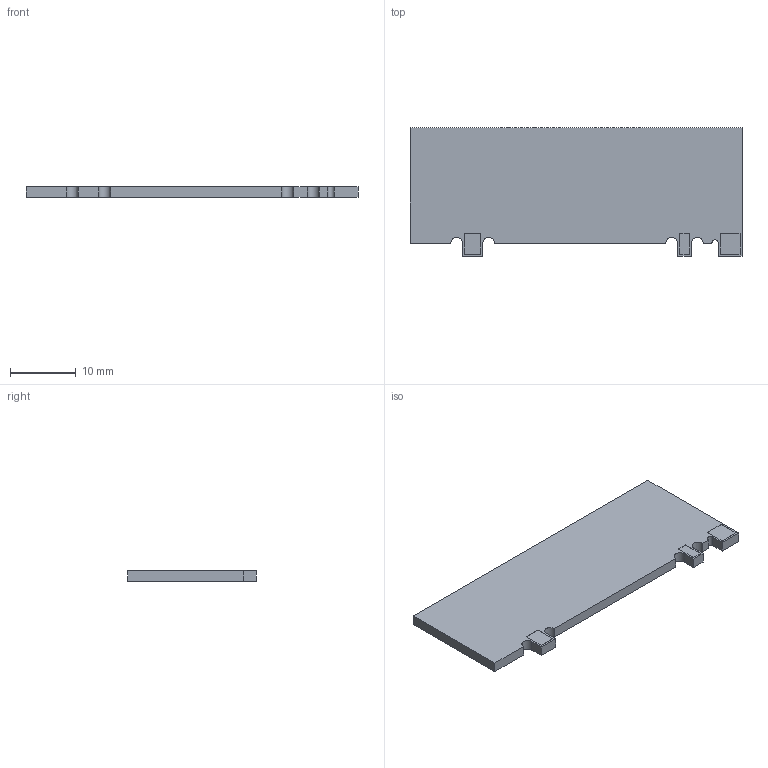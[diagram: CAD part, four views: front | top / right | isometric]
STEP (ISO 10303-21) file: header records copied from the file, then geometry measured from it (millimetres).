
FILE_DESCRIPTION((''),'2;1');
FILE_NAME('1002436','2019-10-07T',('mrodriguez'),(''),'CREO PARAMETRIC BY PTC INC, 2016130','CREO PARAMETRIC BY PTC INC, 2016130','');
FILE_SCHEMA(('AP203_CONFIGURATION_CONTROLLED_3D_DESIGN_OF_MECHANICAL_PARTS_AND_ASSEMBLIES_MIM_LF { 1 0 10303 403 2 1 2 }'));
Length unit declared in the file: millimetre
Products named in the file (1): 1002436
Bounding box: 50.6 x 19.6 x 1.6 mm (x, y, z)
Volume: 1443.4 mm3; surface area: 2051.6 mm2
Topology: 1 solids, 1 shells, 51 faces, 1065 edges, 1022 vertices
Faces by surface type: plane 46, cylinder 5
Entity records: 10913 total; most frequent: CARTESIAN_POINT 1731, PRESENTATION_STYLE_ASSIGNMENT 1138, STYLED_ITEM 1132, CURVE_STYLE 1131, DIRECTION 1017, COMPOSITE_CURVE_SEGMENT 936, VECTOR 877, LINE 877
